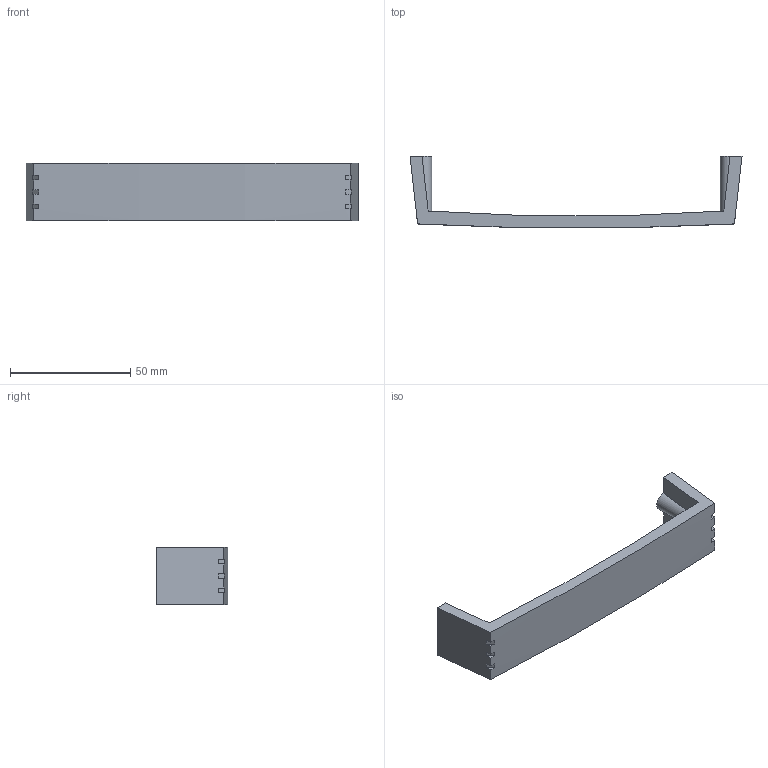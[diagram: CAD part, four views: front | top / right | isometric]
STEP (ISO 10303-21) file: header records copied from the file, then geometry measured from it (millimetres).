
FILE_DESCRIPTION( ( '' ), '1' );
FILE_NAME( 'D:/1.AUTOCAD EXPORT/Group 10/sheet_10_1/9080833.stp', '2013-10-21T04:28:06', ( '' ), ( '' ), ' ', ' ', ' ' );
FILE_SCHEMA( ( 'automotive_design' ) );
Length unit declared in the file: millimetre
Products named in the file (1): 1
Bounding box: 138 x 29.8 x 24 mm (x, y, z)
Volume: 22497.1 mm3; surface area: 11023.6 mm2
Topology: 1 solids, 1 shells, 38 faces, 102 edges, 68 vertices
Faces by surface type: plane 30, cylinder 8
Entity records: 2413 total; most frequent: CARTESIAN_POINT 252, STYLED_ITEM 209, PRESENTATION_STYLE_ASSIGNMENT 209, COLOUR_RGB 209, DIRECTION 208, ORIENTED_EDGE 204, EDGE_CURVE 102, CURVE_STYLE 102
